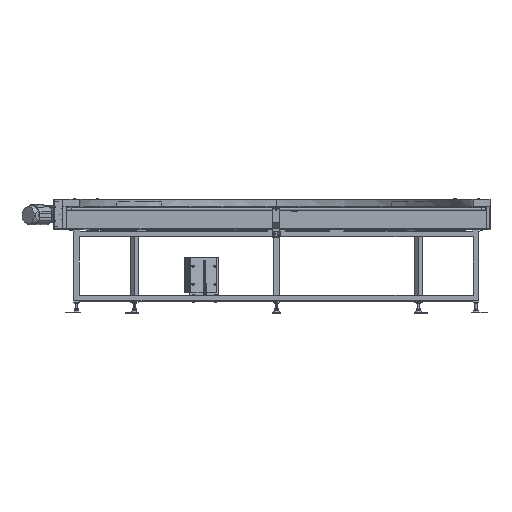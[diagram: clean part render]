
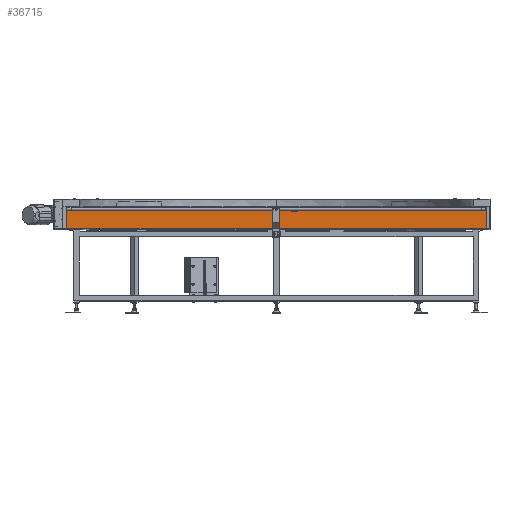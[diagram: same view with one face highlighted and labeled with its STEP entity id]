
A CAD part, top view. The second image highlights one B-rep face of the part: STEP entity #36715.
In plain terms, the highlighted planar face has unit normal (0, 0, 1).
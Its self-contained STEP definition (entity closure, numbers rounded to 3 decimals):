
#538 = CARTESIAN_POINT ( 'NONE',  ( -1518.4, -15., -34. ) ) ;
#946 = ORIENTED_EDGE ( 'NONE', *, *, #12467, .T. ) ;
#1047 = DIRECTION ( 'NONE',  ( -1., 0., 0. ) ) ;
#3625 = CARTESIAN_POINT ( 'NONE',  ( -1518.4, -15., -34. ) ) ;
#4602 = VERTEX_POINT ( 'NONE', #61371 ) ;
#6728 = DIRECTION ( 'NONE',  ( 0., 0., 1. ) ) ;
#10306 = CARTESIAN_POINT ( 'NONE',  ( 1518.4, -15., -34. ) ) ;
#10767 = DIRECTION ( 'NONE',  ( 0., -1., 0. ) ) ;
#12467 = EDGE_CURVE ( 'NONE', #61485, #52807, #59282, .T. ) ;
#15624 = VERTEX_POINT ( 'NONE', #18730 ) ;
#18730 = CARTESIAN_POINT ( 'NONE',  ( 1518.4, -154., -34. ) ) ;
#24193 = ORIENTED_EDGE ( 'NONE', *, *, #44188, .F. ) ;
#29576 = EDGE_LOOP ( 'NONE', ( #24193, #43677, #946, #35295 ) ) ;
#33226 = CARTESIAN_POINT ( 'NONE',  ( -1518.4, -15., -34. ) ) ;
#33922 = AXIS2_PLACEMENT_3D ( 'NONE', #38679, #6728, #48824 ) ;
#35041 = VECTOR ( 'NONE', #10767, 1000. ) ;
#35295 = ORIENTED_EDGE ( 'NONE', *, *, #43539, .T. ) ;
#36715 = ADVANCED_FACE ( 'NONE', ( #58873 ), #65022, .T. ) ;
#36716 = CARTESIAN_POINT ( 'NONE',  ( 1518.4, -15., -34. ) ) ;
#36851 = VECTOR ( 'NONE', #37745, 1000. ) ;
#37745 = DIRECTION ( 'NONE',  ( -1., 0., 0. ) ) ;
#37795 = VECTOR ( 'NONE', #48216, 1000. ) ;
#38679 = CARTESIAN_POINT ( 'NONE',  ( -1518.4, -15., -34. ) ) ;
#43539 = EDGE_CURVE ( 'NONE', #52807, #4602, #55137, .T. ) ;
#43677 = ORIENTED_EDGE ( 'NONE', *, *, #66868, .F. ) ;
#44188 = EDGE_CURVE ( 'NONE', #15624, #4602, #59173, .T. ) ;
#46923 = VECTOR ( 'NONE', #1047, 1000. ) ;
#48216 = DIRECTION ( 'NONE',  ( 0., -1., 0. ) ) ;
#48824 = DIRECTION ( 'NONE',  ( 1., 0., 0. ) ) ;
#49981 = LINE ( 'NONE', #10306, #35041 ) ;
#52807 = VERTEX_POINT ( 'NONE', #3625 ) ;
#55137 = LINE ( 'NONE', #538, #37795 ) ;
#58873 = FACE_OUTER_BOUND ( 'NONE', #29576, .T. ) ;
#59173 = LINE ( 'NONE', #64554, #36851 ) ;
#59282 = LINE ( 'NONE', #33226, #46923 ) ;
#61371 = CARTESIAN_POINT ( 'NONE',  ( -1518.4, -154., -34. ) ) ;
#61485 = VERTEX_POINT ( 'NONE', #36716 ) ;
#64554 = CARTESIAN_POINT ( 'NONE',  ( -1518.4, -154., -34. ) ) ;
#65022 = PLANE ( 'NONE',  #33922 ) ;
#66868 = EDGE_CURVE ( 'NONE', #61485, #15624, #49981, .T. ) ;
